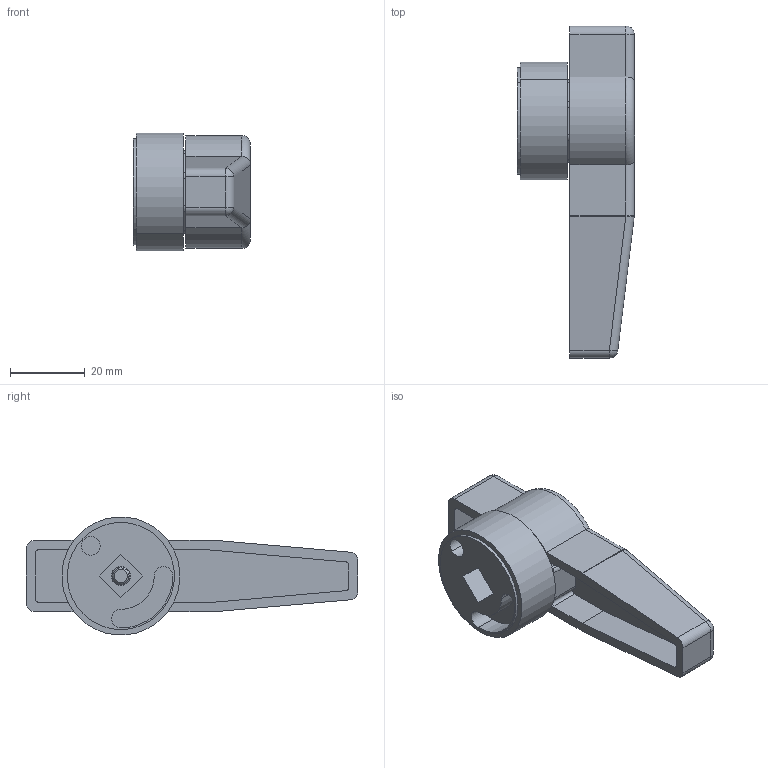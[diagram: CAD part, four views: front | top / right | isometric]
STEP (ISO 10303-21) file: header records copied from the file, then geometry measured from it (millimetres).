
FILE_DESCRIPTION((''),'2;1');
FILE_NAME('ILC62700408_LONG','2013-06-19T',('jdw'),(''),'PRO/ENGINEER BY PARAMETRIC TECHNOLOGY CORPORATION, 2007460','PRO/ENGINEER BY PARAMETRIC TECHNOLOGY CORPORATION, 2007460','');
FILE_SCHEMA(('AUTOMOTIVE_DESIGN_CC2 { 1 2 10303 214 -1 1 5 2 }'));
Length unit declared in the file: inch
Products named in the file (1): ILC62700408_LONG
Bounding box: 31.5 x 88.9 x 31.5 mm (x, y, z)
Volume: 30374 mm3; surface area: 13921.4 mm2
Topology: 1 solids, 3 shells, 292 faces, 752 edges, 492 vertices
Faces by surface type: plane 205, cylinder 71, sphere 8, cone 6, torus 2
Entity records: 11371 total; most frequent: CARTESIAN_POINT 1565, ORIENTED_EDGE 1494, DIRECTION 1486, PRESENTATION_STYLE_ASSIGNMENT 767, STYLED_ITEM 755, CURVE_STYLE 752, EDGE_CURVE 752, VECTOR 596
